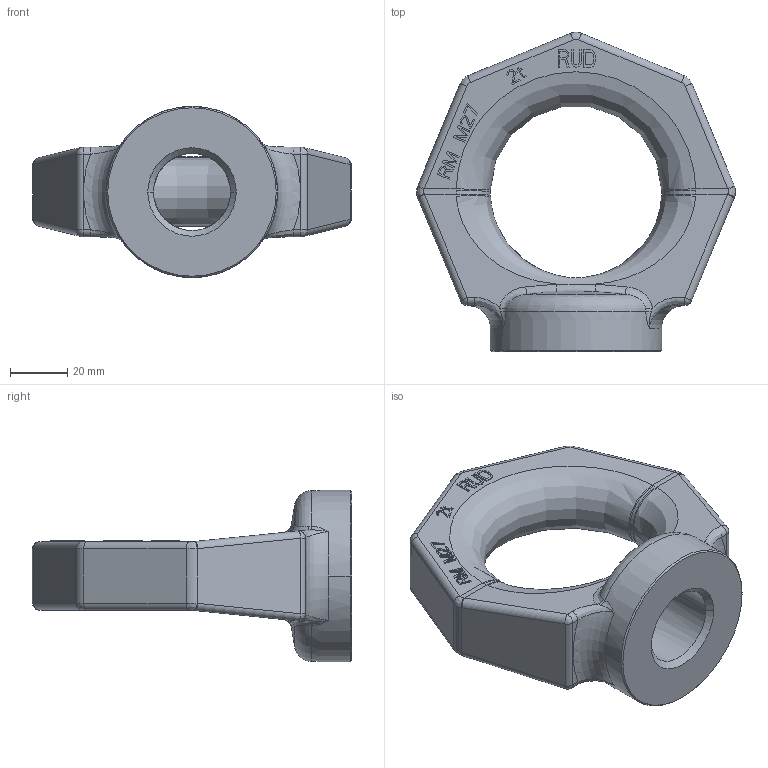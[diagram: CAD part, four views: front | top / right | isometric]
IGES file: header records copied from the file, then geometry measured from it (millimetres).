
Start section:  PTC IGES file: RM_M27_igs.igs
Global section: file name: RM_M27_igs.igs; native system: Pro/ENGINEER by Parametric Technology Corporation; preprocessor: 2011490; author: Roland.Jakubetz; organization: Unknown; date: 20180411.085000; units: millimetre
Bounding box: 111.73 x 111.86 x 60 mm (x, y, z)
Volume: 167032 mm3; surface area: 28543.5 mm2
Topology: 1 solids, 1 shells, 342 faces, 912 edges, 582 vertices
Faces by surface type: bspline 288, revolution 54
